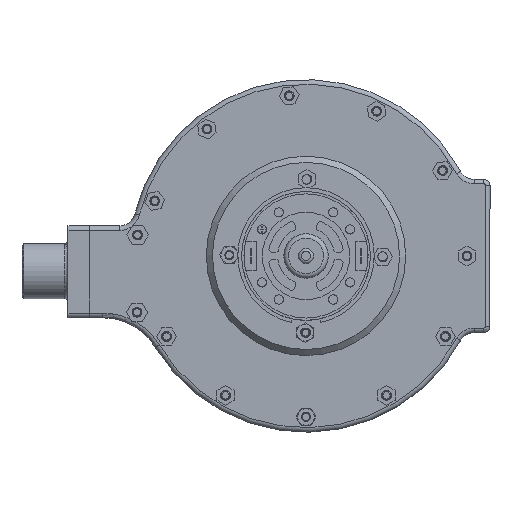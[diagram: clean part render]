
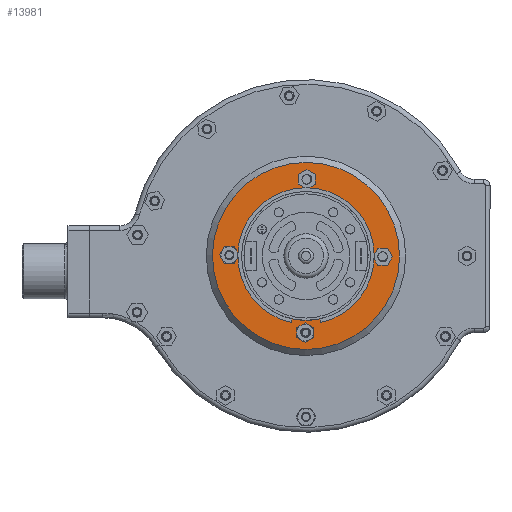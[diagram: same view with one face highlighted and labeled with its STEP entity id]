
A CAD part, front view. The second image highlights one B-rep face of the part: STEP entity #13981.
In plain terms, the highlighted planar face has unit normal (0, -1, 0).
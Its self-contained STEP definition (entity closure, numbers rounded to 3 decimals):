
#537=FACE_BOUND('',#4395,.T.);
#538=FACE_BOUND('',#4396,.T.);
#539=FACE_BOUND('',#4397,.T.);
#540=FACE_BOUND('',#4398,.T.);
#541=FACE_BOUND('',#4399,.T.);
#1146=LINE('',#24625,#2111);
#1149=LINE('',#24631,#2114);
#1152=LINE('',#24637,#2117);
#1155=LINE('',#24643,#2120);
#1158=LINE('',#24649,#2123);
#1161=LINE('',#24653,#2126);
#1164=LINE('',#24661,#2129);
#1167=LINE('',#24667,#2132);
#1170=LINE('',#24673,#2135);
#1173=LINE('',#24679,#2138);
#1176=LINE('',#24685,#2141);
#1179=LINE('',#24689,#2144);
#1182=LINE('',#24697,#2147);
#1185=LINE('',#24703,#2150);
#1188=LINE('',#24709,#2153);
#1191=LINE('',#24715,#2156);
#1194=LINE('',#24721,#2159);
#1197=LINE('',#24725,#2162);
#1200=LINE('',#24733,#2165);
#1203=LINE('',#24739,#2168);
#1206=LINE('',#24745,#2171);
#1209=LINE('',#24751,#2174);
#1212=LINE('',#24757,#2177);
#1215=LINE('',#24761,#2180);
#2111=VECTOR('',#17028,10.);
#2114=VECTOR('',#17033,10.);
#2117=VECTOR('',#17038,10.);
#2120=VECTOR('',#17043,10.);
#2123=VECTOR('',#17048,10.);
#2126=VECTOR('',#17053,10.);
#2129=VECTOR('',#17058,10.);
#2132=VECTOR('',#17063,10.);
#2135=VECTOR('',#17068,10.);
#2138=VECTOR('',#17073,10.);
#2141=VECTOR('',#17078,10.);
#2144=VECTOR('',#17083,10.);
#2147=VECTOR('',#17088,10.);
#2150=VECTOR('',#17093,10.);
#2153=VECTOR('',#17098,10.);
#2156=VECTOR('',#17103,10.);
#2159=VECTOR('',#17108,10.);
#2162=VECTOR('',#17113,10.);
#2165=VECTOR('',#17118,10.);
#2168=VECTOR('',#17123,10.);
#2171=VECTOR('',#17128,10.);
#2174=VECTOR('',#17133,10.);
#2177=VECTOR('',#17138,10.);
#2180=VECTOR('',#17143,10.);
#3064=PLANE('',#15349);
#3547=FACE_OUTER_BOUND('',#4394,.T.);
#4394=EDGE_LOOP('',(#10344));
#4395=EDGE_LOOP('',(#10345,#10346,#10347,#10348,#10349,#10350));
#4396=EDGE_LOOP('',(#10351,#10352,#10353,#10354,#10355,#10356));
#4397=EDGE_LOOP('',(#10357,#10358,#10359,#10360,#10361,#10362));
#4398=EDGE_LOOP('',(#10363,#10364,#10365,#10366,#10367,#10368));
#4399=EDGE_LOOP('',(#10369));
#5701=CIRCLE('',#15346,30.5);
#5704=CIRCLE('',#15350,16.);
#6514=VERTEX_POINT('',#24622);
#6515=VERTEX_POINT('',#24624);
#6517=VERTEX_POINT('',#24630);
#6519=VERTEX_POINT('',#24636);
#6521=VERTEX_POINT('',#24642);
#6523=VERTEX_POINT('',#24648);
#6526=VERTEX_POINT('',#24658);
#6527=VERTEX_POINT('',#24660);
#6529=VERTEX_POINT('',#24666);
#6531=VERTEX_POINT('',#24672);
#6533=VERTEX_POINT('',#24678);
#6535=VERTEX_POINT('',#24684);
#6538=VERTEX_POINT('',#24694);
#6539=VERTEX_POINT('',#24696);
#6541=VERTEX_POINT('',#24702);
#6543=VERTEX_POINT('',#24708);
#6545=VERTEX_POINT('',#24714);
#6547=VERTEX_POINT('',#24720);
#6550=VERTEX_POINT('',#24730);
#6551=VERTEX_POINT('',#24732);
#6553=VERTEX_POINT('',#24738);
#6555=VERTEX_POINT('',#24744);
#6557=VERTEX_POINT('',#24750);
#6559=VERTEX_POINT('',#24756);
#6560=VERTEX_POINT('',#24763);
#6563=VERTEX_POINT('',#24771);
#7948=EDGE_CURVE('',#6515,#6514,#1146,.T.);
#7951=EDGE_CURVE('',#6517,#6515,#1149,.T.);
#7954=EDGE_CURVE('',#6519,#6517,#1152,.T.);
#7957=EDGE_CURVE('',#6521,#6519,#1155,.T.);
#7960=EDGE_CURVE('',#6523,#6521,#1158,.T.);
#7963=EDGE_CURVE('',#6514,#6523,#1161,.T.);
#7966=EDGE_CURVE('',#6527,#6526,#1164,.T.);
#7969=EDGE_CURVE('',#6529,#6527,#1167,.T.);
#7972=EDGE_CURVE('',#6531,#6529,#1170,.T.);
#7975=EDGE_CURVE('',#6533,#6531,#1173,.T.);
#7978=EDGE_CURVE('',#6535,#6533,#1176,.T.);
#7981=EDGE_CURVE('',#6526,#6535,#1179,.T.);
#7984=EDGE_CURVE('',#6539,#6538,#1182,.T.);
#7987=EDGE_CURVE('',#6541,#6539,#1185,.T.);
#7990=EDGE_CURVE('',#6543,#6541,#1188,.T.);
#7993=EDGE_CURVE('',#6545,#6543,#1191,.T.);
#7996=EDGE_CURVE('',#6547,#6545,#1194,.T.);
#7999=EDGE_CURVE('',#6538,#6547,#1197,.T.);
#8002=EDGE_CURVE('',#6551,#6550,#1200,.T.);
#8005=EDGE_CURVE('',#6553,#6551,#1203,.T.);
#8008=EDGE_CURVE('',#6555,#6553,#1206,.T.);
#8011=EDGE_CURVE('',#6557,#6555,#1209,.T.);
#8014=EDGE_CURVE('',#6559,#6557,#1212,.T.);
#8017=EDGE_CURVE('',#6550,#6559,#1215,.T.);
#8018=EDGE_CURVE('',#6560,#6560,#5701,.T.);
#8022=EDGE_CURVE('',#6563,#6563,#5704,.T.);
#10344=ORIENTED_EDGE('',*,*,#8018,.F.);
#10345=ORIENTED_EDGE('',*,*,#7948,.T.);
#10346=ORIENTED_EDGE('',*,*,#7963,.T.);
#10347=ORIENTED_EDGE('',*,*,#7960,.T.);
#10348=ORIENTED_EDGE('',*,*,#7957,.T.);
#10349=ORIENTED_EDGE('',*,*,#7954,.T.);
#10350=ORIENTED_EDGE('',*,*,#7951,.T.);
#10351=ORIENTED_EDGE('',*,*,#7966,.T.);
#10352=ORIENTED_EDGE('',*,*,#7981,.T.);
#10353=ORIENTED_EDGE('',*,*,#7978,.T.);
#10354=ORIENTED_EDGE('',*,*,#7975,.T.);
#10355=ORIENTED_EDGE('',*,*,#7972,.T.);
#10356=ORIENTED_EDGE('',*,*,#7969,.T.);
#10357=ORIENTED_EDGE('',*,*,#7984,.T.);
#10358=ORIENTED_EDGE('',*,*,#7999,.T.);
#10359=ORIENTED_EDGE('',*,*,#7996,.T.);
#10360=ORIENTED_EDGE('',*,*,#7993,.T.);
#10361=ORIENTED_EDGE('',*,*,#7990,.T.);
#10362=ORIENTED_EDGE('',*,*,#7987,.T.);
#10363=ORIENTED_EDGE('',*,*,#8002,.T.);
#10364=ORIENTED_EDGE('',*,*,#8017,.T.);
#10365=ORIENTED_EDGE('',*,*,#8014,.T.);
#10366=ORIENTED_EDGE('',*,*,#8011,.T.);
#10367=ORIENTED_EDGE('',*,*,#8008,.T.);
#10368=ORIENTED_EDGE('',*,*,#8005,.T.);
#10369=ORIENTED_EDGE('',*,*,#8022,.F.);
#13981=ADVANCED_FACE('',(#3547,#537,#538,#539,#540,#541),#3064,.F.);
#15346=AXIS2_PLACEMENT_3D('',#24764,#17146,#17147);
#15349=AXIS2_PLACEMENT_3D('',#24770,#17153,#17154);
#15350=AXIS2_PLACEMENT_3D('',#24772,#17155,#17156);
#17028=DIRECTION('',(0.,0.,1.));
#17033=DIRECTION('',(-0.866,0.,0.5));
#17038=DIRECTION('',(-0.866,0.,-0.5));
#17043=DIRECTION('',(0.,0.,-1.));
#17048=DIRECTION('',(0.866,0.,-0.5));
#17053=DIRECTION('',(0.866,0.,0.5));
#17058=DIRECTION('',(1.,0.,0.));
#17063=DIRECTION('',(0.5,0.,0.866));
#17068=DIRECTION('',(-0.5,0.,0.866));
#17073=DIRECTION('',(-1.,0.,0.));
#17078=DIRECTION('',(-0.5,0.,-0.866));
#17083=DIRECTION('',(0.5,0.,-0.866));
#17088=DIRECTION('',(0.,0.,-1.));
#17093=DIRECTION('',(0.866,0.,-0.5));
#17098=DIRECTION('',(0.866,0.,0.5));
#17103=DIRECTION('',(0.,0.,1.));
#17108=DIRECTION('',(-0.866,0.,0.5));
#17113=DIRECTION('',(-0.866,0.,-0.5));
#17118=DIRECTION('',(-1.,0.,0.));
#17123=DIRECTION('',(-0.5,0.,-0.866));
#17128=DIRECTION('',(0.5,0.,-0.866));
#17133=DIRECTION('',(1.,0.,0.));
#17138=DIRECTION('',(0.5,0.,0.866));
#17143=DIRECTION('',(-0.5,0.,0.866));
#17146=DIRECTION('center_axis',(0.,1.,0.));
#17147=DIRECTION('ref_axis',(-1.,0.,0.));
#17153=DIRECTION('center_axis',(0.,1.,0.));
#17154=DIRECTION('ref_axis',(0.,0.,1.));
#17155=DIRECTION('center_axis',(0.,-1.,0.));
#17156=DIRECTION('ref_axis',(-1.,0.,0.));
#24622=CARTESIAN_POINT('',(-2.749,33.5,26.589));
#24624=CARTESIAN_POINT('',(-2.751,33.5,23.413));
#24625=CARTESIAN_POINT('',(-2.755,33.5,11.707));
#24630=CARTESIAN_POINT('',(-0.001,33.5,21.825));
#24631=CARTESIAN_POINT('',(4.726,33.5,19.093));
#24636=CARTESIAN_POINT('',(2.749,33.5,23.411));
#24637=CARTESIAN_POINT('',(-3.349,33.5,19.894));
#24642=CARTESIAN_POINT('',(2.751,33.5,26.587));
#24643=CARTESIAN_POINT('',(2.746,33.5,13.293));
#24648=CARTESIAN_POINT('',(0.001,33.5,28.175));
#24649=CARTESIAN_POINT('',(6.104,33.5,24.649));
#24653=CARTESIAN_POINT('',(-7.472,33.5,23.865));
#24658=CARTESIAN_POINT('',(26.589,33.5,2.749));
#24660=CARTESIAN_POINT('',(23.413,33.5,2.751));
#24661=CARTESIAN_POINT('',(11.707,33.5,2.755));
#24666=CARTESIAN_POINT('',(21.825,33.5,0.001));
#24667=CARTESIAN_POINT('',(19.093,33.5,-4.726));
#24672=CARTESIAN_POINT('',(23.411,33.5,-2.749));
#24673=CARTESIAN_POINT('',(19.894,33.5,3.349));
#24678=CARTESIAN_POINT('',(26.587,33.5,-2.751));
#24679=CARTESIAN_POINT('',(13.293,33.5,-2.746));
#24684=CARTESIAN_POINT('',(28.175,33.5,-0.001));
#24685=CARTESIAN_POINT('',(24.649,33.5,-6.104));
#24689=CARTESIAN_POINT('',(23.865,33.5,7.472));
#24694=CARTESIAN_POINT('',(2.749,33.5,-26.589));
#24696=CARTESIAN_POINT('',(2.751,33.5,-23.413));
#24697=CARTESIAN_POINT('',(2.755,33.5,-11.707));
#24702=CARTESIAN_POINT('',(0.001,33.5,-21.825));
#24703=CARTESIAN_POINT('',(-4.726,33.5,-19.093));
#24708=CARTESIAN_POINT('',(-2.749,33.5,-23.411));
#24709=CARTESIAN_POINT('',(3.349,33.5,-19.894));
#24714=CARTESIAN_POINT('',(-2.751,33.5,-26.587));
#24715=CARTESIAN_POINT('',(-2.746,33.5,-13.293));
#24720=CARTESIAN_POINT('',(-0.001,33.5,-28.175));
#24721=CARTESIAN_POINT('',(-6.104,33.5,-24.649));
#24725=CARTESIAN_POINT('',(7.472,33.5,-23.865));
#24730=CARTESIAN_POINT('',(-26.589,33.5,-2.749));
#24732=CARTESIAN_POINT('',(-23.413,33.5,-2.751));
#24733=CARTESIAN_POINT('',(-11.707,33.5,-2.755));
#24738=CARTESIAN_POINT('',(-21.825,33.5,-0.001));
#24739=CARTESIAN_POINT('',(-19.093,33.5,4.726));
#24744=CARTESIAN_POINT('',(-23.411,33.5,2.749));
#24745=CARTESIAN_POINT('',(-19.894,33.5,-3.349));
#24750=CARTESIAN_POINT('',(-26.587,33.5,2.751));
#24751=CARTESIAN_POINT('',(-13.293,33.5,2.746));
#24756=CARTESIAN_POINT('',(-28.175,33.5,0.001));
#24757=CARTESIAN_POINT('',(-24.649,33.5,6.104));
#24761=CARTESIAN_POINT('',(-23.865,33.5,-7.472));
#24763=CARTESIAN_POINT('',(30.5,33.5,0.));
#24764=CARTESIAN_POINT('Origin',(0.,33.5,0.));
#24770=CARTESIAN_POINT('Origin',(0.,33.5,0.));
#24771=CARTESIAN_POINT('',(0.,33.5,16.));
#24772=CARTESIAN_POINT('Origin',(0.,33.5,0.));
